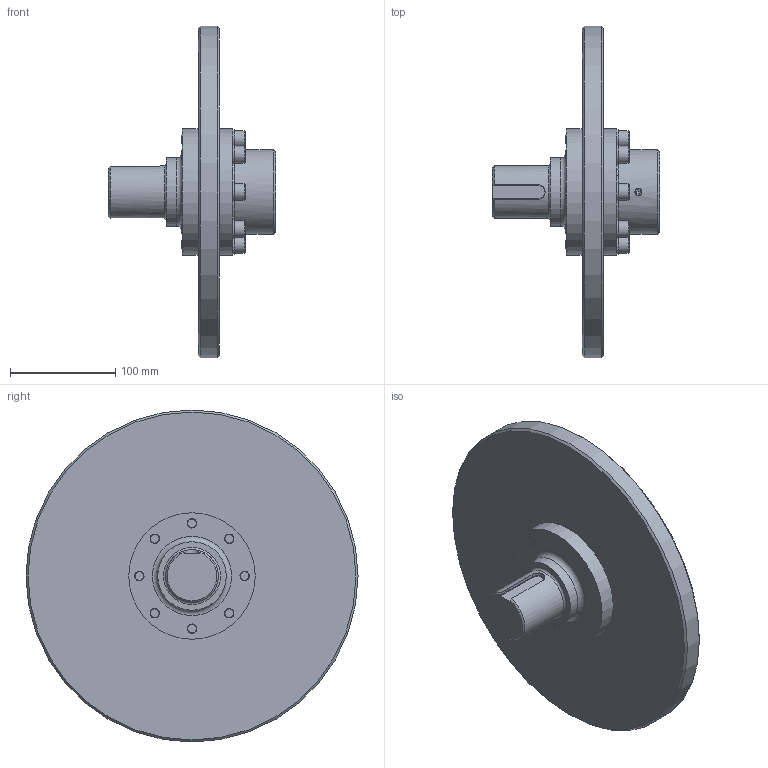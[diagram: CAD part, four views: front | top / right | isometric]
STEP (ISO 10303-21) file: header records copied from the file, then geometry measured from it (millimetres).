
FILE_DESCRIPTION(/* description */ (''),/* implementation_level */ '2;1');
FILE_NAME(/* name */ 'C:\Users\vlakrc01\Desktop\COUPLINGS\03 RKSM STEP\STEP\49384.stp',/* time_stamp */ '2017-03-15T11:54:44+01:00',/* author */ ('vlakrc01'),/* organization */ (''),/* preprocessor_version */ 'ST-DEVELOPER v16.1',/* originating_system */ 'Autodesk Inventor 2016',/* authorisation */ '');
FILE_SCHEMA (('CONFIG_CONTROL_DESIGN','AUTOMOTIVE_DESIGN { 1 0 10303 214 3 1 1 }'));
Length unit declared in the file: millimetre
Products named in the file (1): 49384_Shrinkwrap_1
Bounding box: 158.5 x 315 x 315 mm (x, y, z)
Volume: 2140046.7 mm3; surface area: 247808.8 mm2
Topology: 1 solids, 11 shells, 224 faces, 493 edges, 321 vertices
Faces by surface type: plane 126, cylinder 56, cone 28, torus 14
Full cylindrical faces by diameter (mm): 6.647 x1, 10 x8, 10.5 x8, 11 x8, 16 x8, 18 x8, 50 x1, 65 x1, 70 x3, 80 x1, 120 x2, 315 x1
Entity records: 5726 total; most frequent: CARTESIAN_POINT 1145, DIRECTION 909, ORIENTED_EDGE 730, AXIS2_PLACEMENT_3D 387, EDGE_CURVE 365, EDGE_LOOP 363, VERTEX_POINT 282, STYLED_ITEM 225
